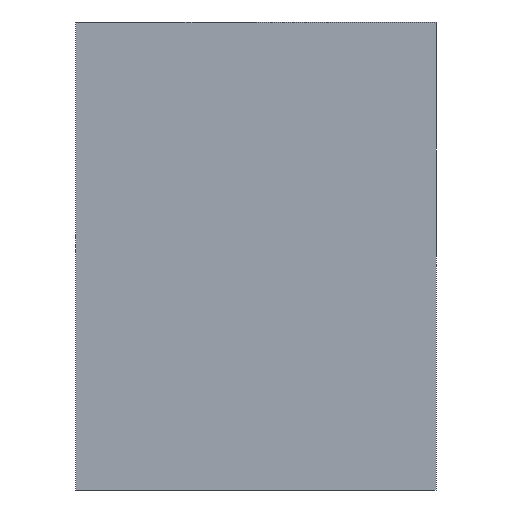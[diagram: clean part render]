
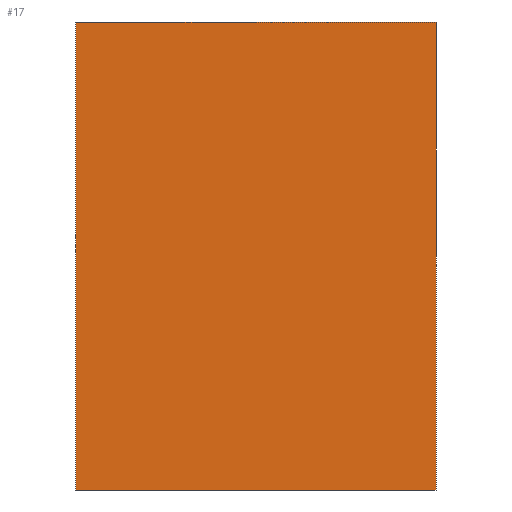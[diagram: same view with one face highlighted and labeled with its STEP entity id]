
A CAD part, left-side view. The second image highlights one B-rep face of the part: STEP entity #17.
In plain terms, the highlighted planar face has unit normal (-1, 0, 0).
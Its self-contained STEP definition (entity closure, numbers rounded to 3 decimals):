
#17 = ADVANCED_FACE('',(#18),#32,.F.);
#18 = FACE_BOUND('',#19,.F.);
#19 = EDGE_LOOP('',(#20,#55,#81,#109));
#20 = ORIENTED_EDGE('',*,*,#21,.F.);
#21 = EDGE_CURVE('',#22,#24,#26,.T.);
#22 = VERTEX_POINT('',#23);
#23 = CARTESIAN_POINT('',(100.,-176.,13.));
#24 = VERTEX_POINT('',#25);
#25 = CARTESIAN_POINT('',(100.,-166.,13.));
#26 = SURFACE_CURVE('',#27,(#31,#43),.PCURVE_S1.);
#27 = LINE('',#28,#29);
#28 = CARTESIAN_POINT('',(100.,-180.,13.));
#29 = VECTOR('',#30,1.);
#30 = DIRECTION('',(-0.,1.,0.));
#31 = PCURVE('',#32,#37);
#32 = PLANE('',#33);
#33 = AXIS2_PLACEMENT_3D('',#34,#35,#36);
#34 = CARTESIAN_POINT('',(100.,-180.,0.));
#35 = DIRECTION('',(1.,0.,-0.));
#36 = DIRECTION('',(0.,0.,1.));
#37 = DEFINITIONAL_REPRESENTATION('',(#38),#42);
#38 = LINE('',#39,#40);
#39 = CARTESIAN_POINT('',(13.,0.));
#40 = VECTOR('',#41,1.);
#41 = DIRECTION('',(0.,-1.));
#42 = ( GEOMETRIC_REPRESENTATION_CONTEXT(2) 
PARAMETRIC_REPRESENTATION_CONTEXT() REPRESENTATION_CONTEXT('2D SPACE',''
  ) );
#43 = PCURVE('',#44,#49);
#44 = PLANE('',#45);
#45 = AXIS2_PLACEMENT_3D('',#46,#47,#48);
#46 = CARTESIAN_POINT('',(100.,-180.,13.));
#47 = DIRECTION('',(0.,0.,1.));
#48 = DIRECTION('',(1.,0.,-0.));
#49 = DEFINITIONAL_REPRESENTATION('',(#50),#54);
#50 = LINE('',#51,#52);
#51 = CARTESIAN_POINT('',(0.,0.));
#52 = VECTOR('',#53,1.);
#53 = DIRECTION('',(0.,1.));
#54 = ( GEOMETRIC_REPRESENTATION_CONTEXT(2) 
PARAMETRIC_REPRESENTATION_CONTEXT() REPRESENTATION_CONTEXT('2D SPACE',''
  ) );
#55 = ORIENTED_EDGE('',*,*,#56,.F.);
#56 = EDGE_CURVE('',#57,#22,#59,.T.);
#57 = VERTEX_POINT('',#58);
#58 = CARTESIAN_POINT('',(100.,-176.,0.));
#59 = SURFACE_CURVE('',#60,(#64,#70),.PCURVE_S1.);
#60 = LINE('',#61,#62);
#61 = CARTESIAN_POINT('',(100.,-176.,0.));
#62 = VECTOR('',#63,1.);
#63 = DIRECTION('',(0.,-0.,1.));
#64 = PCURVE('',#32,#65);
#65 = DEFINITIONAL_REPRESENTATION('',(#66),#69);
#66 = B_SPLINE_CURVE_WITH_KNOTS('',1,(#67,#68),.UNSPECIFIED.,.F.,.F.,(2,
    2),(0.,13.),.PIECEWISE_BEZIER_KNOTS.);
#67 = CARTESIAN_POINT('',(0.,-4.));
#68 = CARTESIAN_POINT('',(13.,-4.));
#69 = ( GEOMETRIC_REPRESENTATION_CONTEXT(2) 
PARAMETRIC_REPRESENTATION_CONTEXT() REPRESENTATION_CONTEXT('2D SPACE',''
  ) );
#70 = PCURVE('',#71,#76);
#71 = PLANE('',#72);
#72 = AXIS2_PLACEMENT_3D('',#73,#74,#75);
#73 = CARTESIAN_POINT('',(-192.,-176.,0.));
#74 = DIRECTION('',(0.,1.,0.));
#75 = DIRECTION('',(1.,0.,0.));
#76 = DEFINITIONAL_REPRESENTATION('',(#77),#80);
#77 = B_SPLINE_CURVE_WITH_KNOTS('',1,(#78,#79),.UNSPECIFIED.,.F.,.F.,(2,
    2),(0.,13.),.PIECEWISE_BEZIER_KNOTS.);
#78 = CARTESIAN_POINT('',(292.,0.));
#79 = CARTESIAN_POINT('',(292.,-13.));
#80 = ( GEOMETRIC_REPRESENTATION_CONTEXT(2) 
PARAMETRIC_REPRESENTATION_CONTEXT() REPRESENTATION_CONTEXT('2D SPACE',''
  ) );
#81 = ORIENTED_EDGE('',*,*,#82,.T.);
#82 = EDGE_CURVE('',#57,#83,#85,.T.);
#83 = VERTEX_POINT('',#84);
#84 = CARTESIAN_POINT('',(100.,-166.,0.));
#85 = SURFACE_CURVE('',#86,(#90,#97),.PCURVE_S1.);
#86 = LINE('',#87,#88);
#87 = CARTESIAN_POINT('',(100.,-180.,0.));
#88 = VECTOR('',#89,1.);
#89 = DIRECTION('',(-0.,1.,0.));
#90 = PCURVE('',#32,#91);
#91 = DEFINITIONAL_REPRESENTATION('',(#92),#96);
#92 = LINE('',#93,#94);
#93 = CARTESIAN_POINT('',(0.,0.));
#94 = VECTOR('',#95,1.);
#95 = DIRECTION('',(0.,-1.));
#96 = ( GEOMETRIC_REPRESENTATION_CONTEXT(2) 
PARAMETRIC_REPRESENTATION_CONTEXT() REPRESENTATION_CONTEXT('2D SPACE',''
  ) );
#97 = PCURVE('',#98,#103);
#98 = PLANE('',#99);
#99 = AXIS2_PLACEMENT_3D('',#100,#101,#102);
#100 = CARTESIAN_POINT('',(100.,-180.,0.));
#101 = DIRECTION('',(0.,0.,1.));
#102 = DIRECTION('',(1.,0.,-0.));
#103 = DEFINITIONAL_REPRESENTATION('',(#104),#108);
#104 = LINE('',#105,#106);
#105 = CARTESIAN_POINT('',(0.,0.));
#106 = VECTOR('',#107,1.);
#107 = DIRECTION('',(0.,1.));
#108 = ( GEOMETRIC_REPRESENTATION_CONTEXT(2) 
PARAMETRIC_REPRESENTATION_CONTEXT() REPRESENTATION_CONTEXT('2D SPACE',''
  ) );
#109 = ORIENTED_EDGE('',*,*,#110,.T.);
#110 = EDGE_CURVE('',#83,#24,#111,.T.);
#111 = SURFACE_CURVE('',#112,(#116,#123),.PCURVE_S1.);
#112 = LINE('',#113,#114);
#113 = CARTESIAN_POINT('',(100.,-166.,0.));
#114 = VECTOR('',#115,1.);
#115 = DIRECTION('',(0.,0.,1.));
#116 = PCURVE('',#32,#117);
#117 = DEFINITIONAL_REPRESENTATION('',(#118),#122);
#118 = LINE('',#119,#120);
#119 = CARTESIAN_POINT('',(0.,-14.));
#120 = VECTOR('',#121,1.);
#121 = DIRECTION('',(1.,0.));
#122 = ( GEOMETRIC_REPRESENTATION_CONTEXT(2) 
PARAMETRIC_REPRESENTATION_CONTEXT() REPRESENTATION_CONTEXT('2D SPACE',''
  ) );
#123 = PCURVE('',#124,#129);
#124 = PLANE('',#125);
#125 = AXIS2_PLACEMENT_3D('',#126,#127,#128);
#126 = CARTESIAN_POINT('',(100.,-166.,0.));
#127 = DIRECTION('',(-0.,1.,0.));
#128 = DIRECTION('',(0.,0.,1.));
#129 = DEFINITIONAL_REPRESENTATION('',(#130),#134);
#130 = LINE('',#131,#132);
#131 = CARTESIAN_POINT('',(0.,0.));
#132 = VECTOR('',#133,1.);
#133 = DIRECTION('',(1.,0.));
#134 = ( GEOMETRIC_REPRESENTATION_CONTEXT(2) 
PARAMETRIC_REPRESENTATION_CONTEXT() REPRESENTATION_CONTEXT('2D SPACE',''
  ) );
